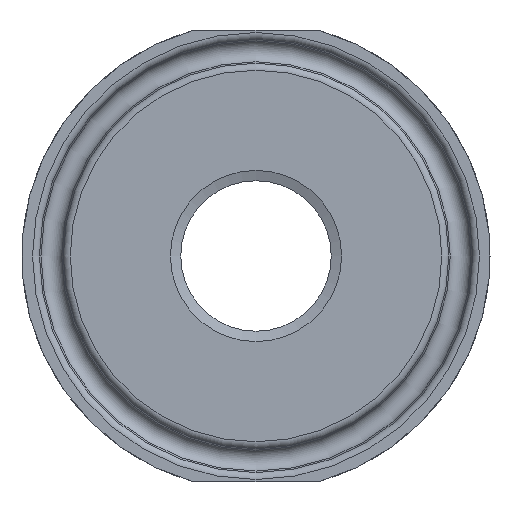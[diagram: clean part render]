
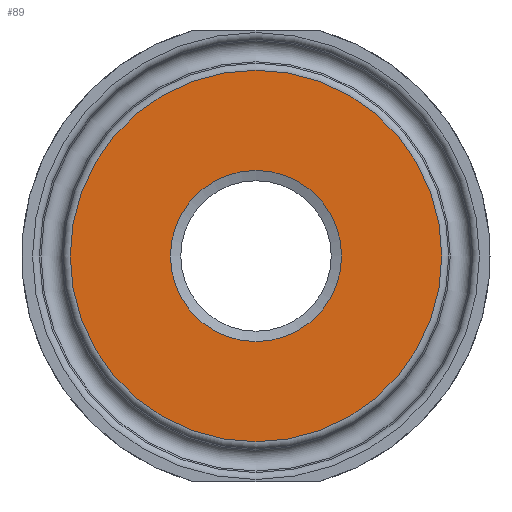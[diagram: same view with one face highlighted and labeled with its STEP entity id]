
A CAD part, front view. The second image highlights one B-rep face of the part: STEP entity #89.
In plain terms, the highlighted planar face has unit normal (0, -1, 0).
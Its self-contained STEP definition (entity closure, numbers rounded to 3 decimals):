
#89 = ADVANCED_FACE( '', ( #134, #135 ), #136, .F. );
#134 = FACE_BOUND( '', #199, .T. );
#135 = FACE_OUTER_BOUND( '', #200, .T. );
#136 = PLANE( '', #201 );
#199 = EDGE_LOOP( '', ( #322 ) );
#200 = EDGE_LOOP( '', ( #323 ) );
#201 = AXIS2_PLACEMENT_3D( '', #324, #325, #326 );
#322 = ORIENTED_EDGE( '', *, *, #427, .F. );
#323 = ORIENTED_EDGE( '', *, *, #428, .T. );
#324 = CARTESIAN_POINT( '', ( 19.747, 0., 0. ) );
#325 = DIRECTION( '', ( 0., 1., 0. ) );
#326 = DIRECTION( '', ( 0., 0., 1. ) );
#427 = EDGE_CURVE( '', #496, #496, #497, .T. );
#428 = EDGE_CURVE( '', #498, #498, #499, .T. );
#496 = VERTEX_POINT( '', #644 );
#497 = CIRCLE( '', #645, 9.099 );
#498 = VERTEX_POINT( '', #646 );
#499 = CIRCLE( '', #647, 19.747 );
#644 = CARTESIAN_POINT( '', ( 0., 0., -9.099 ) );
#645 = AXIS2_PLACEMENT_3D( '', #718, #719, #720 );
#646 = CARTESIAN_POINT( '', ( 0., 0., -19.747 ) );
#647 = AXIS2_PLACEMENT_3D( '', #721, #722, #723 );
#718 = CARTESIAN_POINT( '', ( 0., 0., 0. ) );
#719 = DIRECTION( '', ( 0., -1., 0. ) );
#720 = DIRECTION( '', ( 0., 0., -1. ) );
#721 = CARTESIAN_POINT( '', ( 0., 0., 0. ) );
#722 = DIRECTION( '', ( 0., -1., 0. ) );
#723 = DIRECTION( '', ( 0., 0., -1. ) );
